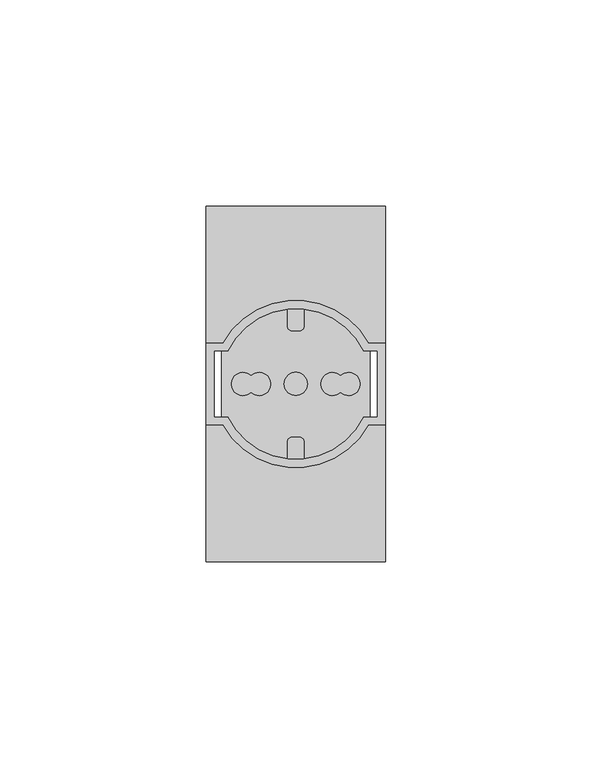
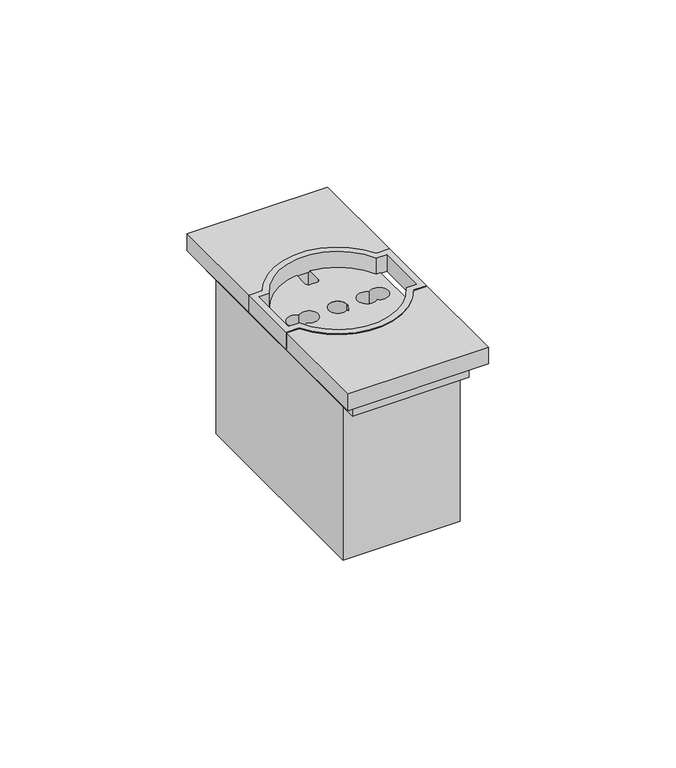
"""IFC4 building model written with IfcOpenShell, lengths in millimetres: proxy geometry, BT_LN-PresaStandard_Ita-Ger : Prese standard Italia/Germania - Art.KW4140A16 - 2M - Cover Bianco."""

from ifc_helpers import new_model, si_unit, point, frame, frame_2d, origin, origin_with_axes, origin_2d, place, context, project, spatial, polyline, circle_curve, trimmed, segment, composite_curve, outline, extrude, source, transform, mapped, element, save


def electrical_fixtures_c0c311a9(model_context):
    return source(origin(), model_context, "Body", "SweptSolid", [
        extrude(outline(polyline([(-18.0, 34.0), (18.0, 34.0), (18.0, -34.0), (-18.0, -34.0), (-18.0, 34.0)])), origin_with_axes(), (0.0, 0.0, 1.0), 50.0),
        extrude(outline(polyline([(-18.0, 39.0), (18.0, 39.0), (18.0, -39.0), (-18.0, -39.0), (-18.0, 39.0)]), holes=[composite_curve([segment(trimmed(circle_curve(frame_2d((-8.9025866, 0.0)), 2.8), [point((-10.8455278, -2.0161794))], [point((-10.8455278, 2.0161794))], True, "CARTESIAN"), True, "CONTINUOUS"), segment(trimmed(circle_curve(frame_2d((-12.788469, 0.0)), 2.8), [point((-10.8455278, 2.0161794))], [point((-10.8455278, -2.0161794))], True, "CARTESIAN"), True, "CONTINUOUS")], self_intersect=False), composite_curve([segment(trimmed(circle_curve(origin_2d(), 2.8), [point((-2.8, 0.0))], [point((2.8, 0.0))], True, "CARTESIAN"), True, "CONTINUOUS"), segment(trimmed(circle_curve(origin_2d(), 2.8), [point((2.8, 0.0))], [point((-2.8, 0.0))], True, "CARTESIAN"), True, "CONTINUOUS")], self_intersect=False), composite_curve([segment(trimmed(circle_curve(frame_2d((8.9025866, 0.0)), 2.8), [point((10.8455278, 2.0161794))], [point((10.8455278, -2.0161794))], True, "CARTESIAN"), True, "CONTINUOUS"), segment(trimmed(circle_curve(frame_2d((12.788469, 0.0)), 2.8), [point((10.8455278, -2.0161794))], [point((10.8455278, 2.0161794))], True, "CARTESIAN"), True, "CONTINUOUS")], self_intersect=False), composite_curve([segment(polyline([(-2.0, -13.9263679), (-2.0, -18.9951783), (2.0, -18.9951783), (2.0, -13.9263679)]), True, "CONTINUOUS"), segment(trimmed(circle_curve(frame_2d((1.0, -13.9263679)), 1.0), [point((2.0, -13.9263679))], [point((1.0, -12.9263679))], True, "CARTESIAN"), True, "CONTINUOUS"), segment(polyline([(1.0, -12.9263679), (-1.0, -12.9263679)]), True, "CONTINUOUS"), segment(trimmed(circle_curve(frame_2d((-1.0, -13.9263679)), 1.0), [point((-1.0, -12.9263679))], [point((-2.0, -13.9263679))], True, "CARTESIAN"), True, "CONTINUOUS")], self_intersect=False), composite_curve([segment(polyline([(2.0, 13.9263679), (2.0, 18.9951783), (-2.0, 18.9951783), (-2.0, 13.9263679)]), True, "CONTINUOUS"), segment(trimmed(circle_curve(frame_2d((-1.0, 13.9263679)), 1.0), [point((-2.0, 13.9263679))], [point((-1.0, 12.9263679))], True, "CARTESIAN"), True, "CONTINUOUS"), segment(polyline([(-1.0, 12.9263679), (1.0, 12.9263679)]), True, "CONTINUOUS"), segment(trimmed(circle_curve(frame_2d((1.0, 13.9263679)), 1.0), [point((1.0, 12.9263679))], [point((2.0, 13.9263679))], True, "CARTESIAN"), True, "CONTINUOUS")], self_intersect=False)]), frame((0.0, 0.0, 50.0), z_axis=(0.0, 0.0, 1.0), x_axis=(1.0, 0.0, 0.0)), (0.0, 0.0, 1.0), 5.5),
        extrude(outline(composite_curve([segment(polyline([(17.6310751, 9.9154984), (21.7, 9.9154984), (21.7, -9.9154984), (17.6310751, -9.9154984)]), True, "CONTINUOUS"), segment(trimmed(circle_curve(origin_2d(), 20.2279984), [point((17.6310751, -9.9154984))], [point((-17.6310751, -9.9154984))], False, "CARTESIAN"), True, "CONTINUOUS"), segment(polyline([(-17.6310751, -9.9154984), (-21.7, -9.9154984), (-21.7, 9.9154984), (-17.6310751, 9.9154984)]), True, "CONTINUOUS"), segment(trimmed(circle_curve(origin_2d(), 20.2279984), [point((-17.6310751, 9.9154984))], [point((17.6310751, 9.9154984))], False, "CARTESIAN"), True, "CONTINUOUS")], self_intersect=False), holes=[composite_curve([segment(polyline([(-19.7, -7.9154984), (-16.4196471, -7.9154984)]), True, "CONTINUOUS"), segment(trimmed(circle_curve(origin_2d(), 18.2279984), [point((-16.4196471, -7.9154984))], [point((16.4196471, -7.9154984))], True, "CARTESIAN"), True, "CONTINUOUS"), segment(polyline([(16.4196471, -7.9154984), (19.7, -7.9154984), (19.7, 7.9154984), (16.4196471, 7.9154984)]), True, "CONTINUOUS"), segment(trimmed(circle_curve(origin_2d(), 18.2279984), [point((16.4196471, 7.9154984))], [point((-16.4196471, 7.9154984))], True, "CARTESIAN"), True, "CONTINUOUS"), segment(polyline([(-16.4196471, 7.9154984), (-19.7, 7.9154984), (-19.7, -7.9154984)]), True, "CONTINUOUS")], self_intersect=False)]), frame((0.0, 0.0, 55.5), z_axis=(0.0, 0.0, 1.0), x_axis=(1.0, 0.0, 0.0)), (0.0, 0.0, 1.0), 5.5),
        extrude(outline(composite_curve([segment(polyline([(-21.7, 43.0), (21.7, 43.0), (21.7, 9.9154984), (17.6310751, 9.9154984)]), True, "CONTINUOUS"), segment(trimmed(circle_curve(origin_2d(), 20.2279984), [point((17.6310751, 9.9154984))], [point((-17.6310751, 9.9154984))], True, "CARTESIAN"), True, "CONTINUOUS"), segment(polyline([(-17.6310751, 9.9154984), (-21.7, 9.9154984), (-21.7, 43.0)]), True, "CONTINUOUS")], self_intersect=False)), frame((0.0, 0.0, 55.5), z_axis=(0.0, 0.0, 1.0), x_axis=(1.0, 0.0, 0.0)), (0.0, 0.0, 1.0), 5.5),
        extrude(outline(composite_curve([segment(polyline([(-21.7, -43.0), (-21.7, -9.9154984), (-17.6310751, -9.9154984)]), True, "CONTINUOUS"), segment(trimmed(circle_curve(origin_2d(), 20.2279984), [point((-17.6310751, -9.9154984))], [point((17.6310751, -9.9154984))], True, "CARTESIAN"), True, "CONTINUOUS"), segment(polyline([(17.6310751, -9.9154984), (21.7, -9.9154984), (21.7, -43.0), (-21.7, -43.0)]), True, "CONTINUOUS")], self_intersect=False)), frame((0.0, 0.0, 55.5), z_axis=(0.0, 0.0, 1.0), x_axis=(1.0, 0.0, 0.0)), (0.0, 0.0, 1.0), 5.5),
    ])


if __name__ == "__main__":
    model = new_model("IFC4")
    model_context = context("Model", 3, world=origin())
    ifc_project = project(units=[si_unit("LENGTHUNIT", "METRE", prefix="MILLI")], contexts=[model_context])
    site = spatial("IfcSite", under=ifc_project)
    building = spatial("IfcBuilding", under=site)
    placement = place(None, origin())
    electrical_fixtures_shape = electrical_fixtures_c0c311a9(model_context)
    element("IfcBuildingElementProxy", 1, Name="BT_LN-PresaStandard_Ita-Ger : Prese standard Italia/Germania - Art.KW4140A16 - 2M - Cover Bianco", ObjectType="BT_LN-PresaStandard_Ita-Ger : Prese standard Italia/Germania - Art.KW4140A16 - 2M - Cover Bianco", at=placement, inside=building, context=model_context, shape_type="MappedRepresentation", body=[
        mapped(electrical_fixtures_shape, transform((0.0, 0.0, 0.0), x_axis=(1.0, 0.0, 0.0), y_axis=(0.0, 1.0, 0.0), z_axis=(0.0, 0.0, 1.0))),
    ])
    save(model, "model.ifc")
